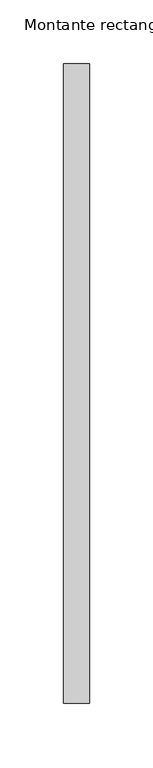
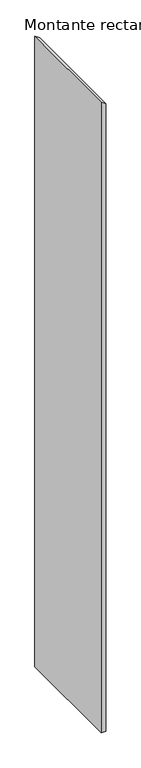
"""IFC4 building model written with IfcOpenShell, lengths in millimetres: member geometry, Montante rectangular : CIRCLES."""

from ifc_helpers import new_model, si_unit, frame, origin, place, context, project, spatial, polyline, outline, extrude, source, transform, mapped, element, save


def montante_rectangular_4684fdaf(model_context):
    return source(origin(), model_context, "Body", "SweptSolid", [
        extrude(outline(polyline([(-30.7665059, 10.0), (-17.3736488, -10.0), (-2918.3783322, -10.0), (-2918.3783322, 10.0), (-30.7665059, 10.0)])), frame((0.0, -250.0, 0.0), z_axis=(0.0, 1.0, 0.0), x_axis=(0.0, 0.0, 1.0)), (0.0, 0.0, 1.0), 500.0),
    ])


if __name__ == "__main__":
    model = new_model("IFC4")
    model_context = context("Model", 3, world=origin())
    ifc_project = project(units=[si_unit("LENGTHUNIT", "METRE", prefix="MILLI")], contexts=[model_context])
    site = spatial("IfcSite", under=ifc_project)
    building = spatial("IfcBuilding", under=site)
    placement = place(None, origin())
    montante_rectangular_shape = montante_rectangular_4684fdaf(model_context)
    element("IfcMember", 1, ObjectType="Montante rectangular : CIRCLES", at=placement, inside=building, context=model_context, shape_type="MappedRepresentation", body=[
        mapped(montante_rectangular_shape, transform((0.0, 0.0, 0.0), x_axis=(1.0, 0.0, 0.0), y_axis=(0.0, 1.0, 0.0), z_axis=(0.0, 0.0, 1.0))),
    ])
    save(model, "model.ifc")
